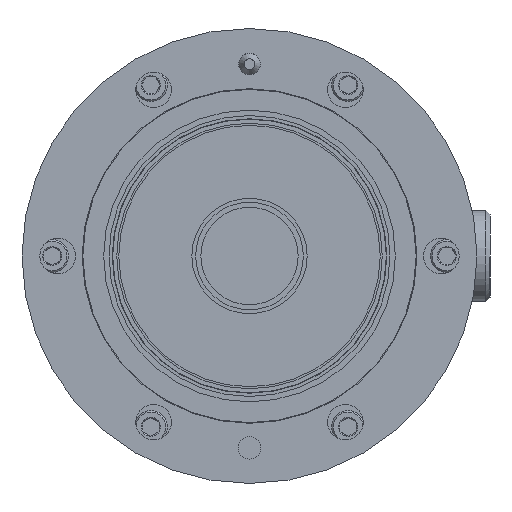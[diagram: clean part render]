
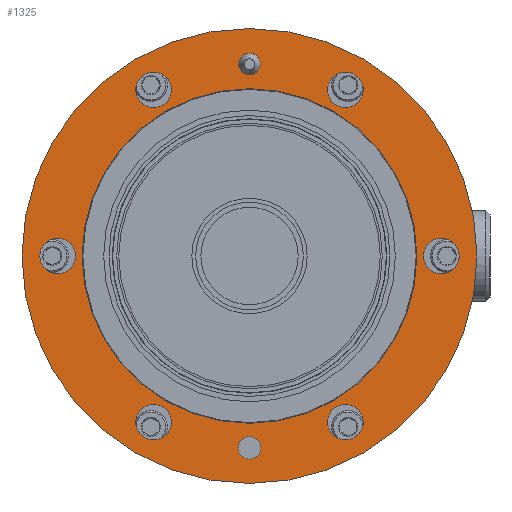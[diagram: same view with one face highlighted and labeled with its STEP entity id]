
A CAD part, left-side view. The second image highlights one B-rep face of the part: STEP entity #1325.
In plain terms, the highlighted planar face has unit normal (-1, 0, 0).
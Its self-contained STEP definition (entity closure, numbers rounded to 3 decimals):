
#717 = EDGE_CURVE( '', #1984, #1984, #1985, .T. );
#741 = EDGE_CURVE( '', #2024, #2024, #2025, .T. );
#767 = EDGE_CURVE( '', #2070, #2070, #2071, .T. );
#1029 = EDGE_CURVE( '', #2504, #2504, #2505, .T. );
#1231 = EDGE_CURVE( '', #2834, #2834, #2835, .T. );
#1279 = EDGE_CURVE( '', #2908, #2908, #2909, .T. );
#1325 = ADVANCED_FACE( '', ( #2981, #2982, #2983, #2984, #2985, #2986, #2987, #2988, #2989, #2990 ), #2991, .T. );
#1339 = EDGE_CURVE( '', #3012, #3012, #3013, .T. );
#1491 = EDGE_CURVE( '', #3248, #3248, #3249, .T. );
#1577 = EDGE_CURVE( '', #3386, #3386, #3387, .T. );
#1683 = EDGE_CURVE( '', #3552, #3552, #3553, .T. );
#1984 = VERTEX_POINT( '', #4201 );
#1985 = CIRCLE( '', #4202, 5.156 );
#2024 = VERTEX_POINT( '', #4259 );
#2025 = CIRCLE( '', #4260, 5.156 );
#2070 = VERTEX_POINT( '', #4307 );
#2071 = CIRCLE( '', #4308, 3.264 );
#2504 = VERTEX_POINT( '', #5286 );
#2505 = CIRCLE( '', #5287, 5.156 );
#2834 = VERTEX_POINT( '', #6900 );
#2835 = CIRCLE( '', #6901, 65.881 );
#2908 = VERTEX_POINT( '', #7292 );
#2909 = CIRCLE( '', #7293, 5.156 );
#2981 = FACE_OUTER_BOUND( '', #7390, .T. );
#2982 = FACE_BOUND( '', #7391, .T. );
#2983 = FACE_BOUND( '', #7392, .T. );
#2984 = FACE_BOUND( '', #7393, .T. );
#2985 = FACE_BOUND( '', #7394, .T. );
#2986 = FACE_BOUND( '', #7395, .T. );
#2987 = FACE_BOUND( '', #7396, .T. );
#2988 = FACE_BOUND( '', #7397, .T. );
#2989 = FACE_BOUND( '', #7398, .T. );
#2990 = FACE_BOUND( '', #7399, .T. );
#2991 = PLANE( '', #7400 );
#3012 = VERTEX_POINT( '', #7434 );
#3013 = CIRCLE( '', #7435, 5.156 );
#3248 = VERTEX_POINT( '', #8301 );
#3249 = CIRCLE( '', #8302, 5.156 );
#3386 = VERTEX_POINT( '', #9043 );
#3387 = CIRCLE( '', #9044, 3.124 );
#3552 = VERTEX_POINT( '', #9261 );
#3553 = CIRCLE( '', #9262, 48.451 );
#4201 = CARTESIAN_POINT( '', ( -39.406, 211.263, -50.697 ) );
#4202 = AXIS2_PLACEMENT_3D( '', #10095, #10096, #10097 );
#4259 = CARTESIAN_POINT( '', ( -39.406, 127.92, -2.578 ) );
#4260 = AXIS2_PLACEMENT_3D( '', #10150, #10151, #10152 );
#4307 = CARTESIAN_POINT( '', ( -39.406, 181.843, -57.194 ) );
#4308 = AXIS2_PLACEMENT_3D( '', #10236, #10237, #10238 );
#5286 = CARTESIAN_POINT( '', ( -39.406, 155.701, 45.54 ) );
#5287 = AXIS2_PLACEMENT_3D( '', #11073, #11074, #11075 );
#6900 = CARTESIAN_POINT( '', ( -39.406, 236.072, -32.941 ) );
#6901 = AXIS2_PLACEMENT_3D( '', #11918, #11919, #11920 );
#7292 = CARTESIAN_POINT( '', ( -39.406, 155.701, -50.697 ) );
#7293 = AXIS2_PLACEMENT_3D( '', #12084, #12085, #12086 );
#7390 = EDGE_LOOP( '', ( #12203 ) );
#7391 = EDGE_LOOP( '', ( #12204 ) );
#7392 = EDGE_LOOP( '', ( #12205 ) );
#7393 = EDGE_LOOP( '', ( #12206 ) );
#7394 = EDGE_LOOP( '', ( #12207 ) );
#7395 = EDGE_LOOP( '', ( #12208 ) );
#7396 = EDGE_LOOP( '', ( #12209 ) );
#7397 = EDGE_LOOP( '', ( #12210 ) );
#7398 = EDGE_LOOP( '', ( #12211 ) );
#7399 = EDGE_LOOP( '', ( #12212 ) );
#7400 = AXIS2_PLACEMENT_3D( '', #12213, #12214, #12215 );
#7434 = CARTESIAN_POINT( '', ( -39.406, 211.263, 45.54 ) );
#7435 = AXIS2_PLACEMENT_3D( '', #12278, #12279, #12280 );
#8301 = CARTESIAN_POINT( '', ( -39.406, 239.045, -2.578 ) );
#8302 = AXIS2_PLACEMENT_3D( '', #12742, #12743, #12744 );
#9043 = CARTESIAN_POINT( '', ( -39.406, 181.722, 54. ) );
#9044 = AXIS2_PLACEMENT_3D( '', #13100, #13101, #13102 );
#9261 = CARTESIAN_POINT( '', ( -39.406, 220.976, -24.225 ) );
#9262 = AXIS2_PLACEMENT_3D( '', #13448, #13449, #13450 );
#10095 = CARTESIAN_POINT( '', ( -39.406, 206.798, -48.119 ) );
#10096 = DIRECTION( '', ( 1., 0., 0. ) );
#10097 = DIRECTION( '', ( 0., 0.866, -0.5 ) );
#10150 = CARTESIAN_POINT( '', ( -39.406, 123.454, 0. ) );
#10151 = DIRECTION( '', ( 1., 0., 0. ) );
#10152 = DIRECTION( '', ( 0., 0.866, -0.5 ) );
#10236 = CARTESIAN_POINT( '', ( -39.406, 179.017, -55.563 ) );
#10237 = DIRECTION( '', ( 1., 0., 0. ) );
#10238 = DIRECTION( '', ( 0., 0.866, -0.5 ) );
#11073 = CARTESIAN_POINT( '', ( -39.406, 151.236, 48.119 ) );
#11074 = DIRECTION( '', ( 1., 0., 0. ) );
#11075 = DIRECTION( '', ( 0., 0.866, -0.5 ) );
#11918 = CARTESIAN_POINT( '', ( -39.406, 179.017, 0. ) );
#11919 = DIRECTION( '', ( 1., 0., 0. ) );
#11920 = DIRECTION( '', ( 0., 0.866, -0.5 ) );
#12084 = CARTESIAN_POINT( '', ( -39.406, 151.236, -48.119 ) );
#12085 = DIRECTION( '', ( 1., 0., 0. ) );
#12086 = DIRECTION( '', ( 0., 0.866, -0.5 ) );
#12203 = ORIENTED_EDGE( '', *, *, #1231, .F. );
#12204 = ORIENTED_EDGE( '', *, *, #767, .T. );
#12205 = ORIENTED_EDGE( '', *, *, #1683, .T. );
#12206 = ORIENTED_EDGE( '', *, *, #741, .T. );
#12207 = ORIENTED_EDGE( '', *, *, #1279, .T. );
#12208 = ORIENTED_EDGE( '', *, *, #717, .T. );
#12209 = ORIENTED_EDGE( '', *, *, #1491, .T. );
#12210 = ORIENTED_EDGE( '', *, *, #1339, .T. );
#12211 = ORIENTED_EDGE( '', *, *, #1029, .T. );
#12212 = ORIENTED_EDGE( '', *, *, #1577, .T. );
#12213 = CARTESIAN_POINT( '', ( -39.406, 152.491, 98.995 ) );
#12214 = DIRECTION( '', ( -1., 0., 0. ) );
#12215 = DIRECTION( '', ( 0., 0., 1. ) );
#12278 = CARTESIAN_POINT( '', ( -39.406, 206.798, 48.119 ) );
#12279 = DIRECTION( '', ( 1., 0., 0. ) );
#12280 = DIRECTION( '', ( 0., 0.866, -0.5 ) );
#12742 = CARTESIAN_POINT( '', ( -39.406, 234.579, 0. ) );
#12743 = DIRECTION( '', ( 1., 0., 0. ) );
#12744 = DIRECTION( '', ( 0., 0.866, -0.5 ) );
#13100 = CARTESIAN_POINT( '', ( -39.406, 179.017, 55.563 ) );
#13101 = DIRECTION( '', ( 1., 0., 0. ) );
#13102 = DIRECTION( '', ( 0., 0.866, -0.5 ) );
#13448 = CARTESIAN_POINT( '', ( -39.406, 179.017, 0. ) );
#13449 = DIRECTION( '', ( 1., 0., 0. ) );
#13450 = DIRECTION( '', ( 0., 0.866, -0.5 ) );
